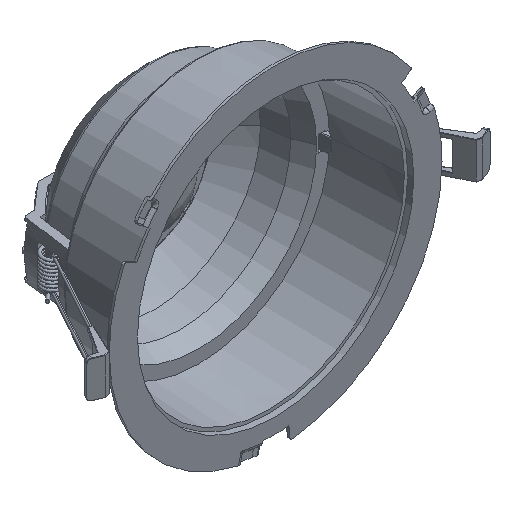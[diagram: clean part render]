
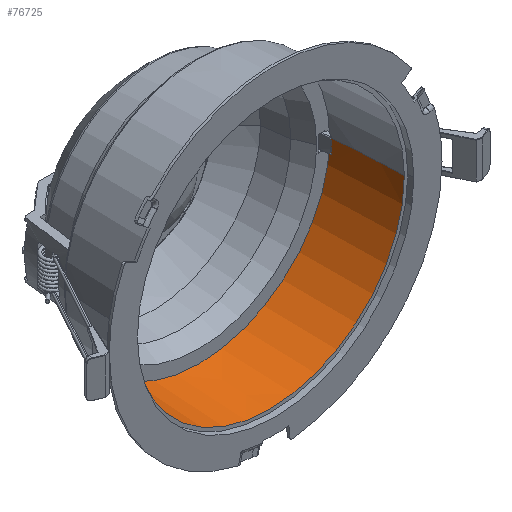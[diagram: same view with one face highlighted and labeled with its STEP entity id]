
A CAD part, isometric view. The second image highlights one B-rep face of the part: STEP entity #76725.
In plain terms, the highlighted free-form (B-spline) face has degree [3, 3] with [7, 4] control points.
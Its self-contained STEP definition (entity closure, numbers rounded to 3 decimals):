
#19532=CARTESIAN_POINT('',(0.,37.8,0.));
#19533=DIRECTION('',(0.,-1.,0.));
#19534=DIRECTION('',(-1.,0.,0.));
#19535=AXIS2_PLACEMENT_3D('',#19532,#19533,#19534);
#19587=CARTESIAN_POINT('',(400.405,-5.234,
0.));
#19588=DIRECTION('',(0.,0.,-1.));
#19589=DIRECTION('',(-1.,0.018,0.));
#19590=AXIS2_PLACEMENT_3D('',#19587,#19588,#19589);
#19592=CARTESIAN_POINT('',(-400.405,-5.234,
0.));
#19593=DIRECTION('',(0.,0.,1.));
#19594=DIRECTION('',(1.,0.018,0.));
#19595=AXIS2_PLACEMENT_3D('',#19592,#19593,#19594);
#19612=CARTESIAN_POINT('',(0.,3.,0.));
#19613=DIRECTION('',(0.,1.,0.));
#19614=DIRECTION('',(1.,0.,0.));
#19615=AXIS2_PLACEMENT_3D('',#19612,#19613,#19614);
#73715=CARTESIAN_POINT('',(-64.407,37.8,0.));
#73716=CARTESIAN_POINT('',(64.407,37.8,0.));
#73717=VERTEX_POINT('',#73715);
#73718=VERTEX_POINT('',#73716);
#73828=CARTESIAN_POINT('',(-66.322,3.,0.));
#73829=CARTESIAN_POINT('',(66.322,3.,0.));
#73830=VERTEX_POINT('',#73828);
#73831=VERTEX_POINT('',#73829);
#76689=CARTESIAN_POINT('',(-64.215,38.494,
4.04));
#76690=CARTESIAN_POINT('',(-65.346,26.459,
4.111));
#76691=CARTESIAN_POINT('',(-66.009,14.389,
4.153));
#76692=CARTESIAN_POINT('',(-66.203,2.303,
4.165));
#76693=CARTESIAN_POINT('',(-66.702,38.494,
-35.478));
#76694=CARTESIAN_POINT('',(-67.876,26.459,
-36.102));
#76695=CARTESIAN_POINT('',(-68.564,14.389,
-36.469));
#76696=CARTESIAN_POINT('',(-68.767,2.303,
-36.576));
#76697=CARTESIAN_POINT('',(-39.596,38.494,
-64.342));
#76698=CARTESIAN_POINT('',(-40.293,26.459,
-65.475));
#76699=CARTESIAN_POINT('',(-40.702,14.389,
-66.139));
#76700=CARTESIAN_POINT('',(-40.822,2.303,
-66.334));
#76701=CARTESIAN_POINT('',(0.,38.494,-64.342));
#76702=CARTESIAN_POINT('',(0.,26.459,-65.475));
#76703=CARTESIAN_POINT('',(0.,14.389,-66.139));
#76704=CARTESIAN_POINT('',(0.,2.303,-66.334));
#76705=CARTESIAN_POINT('',(39.596,38.494,
-64.342));
#76706=CARTESIAN_POINT('',(40.293,26.459,
-65.475));
#76707=CARTESIAN_POINT('',(40.702,14.389,
-66.139));
#76708=CARTESIAN_POINT('',(40.822,2.303,
-66.334));
#76709=CARTESIAN_POINT('',(66.702,38.494,
-35.478));
#76710=CARTESIAN_POINT('',(67.876,26.459,
-36.102));
#76711=CARTESIAN_POINT('',(68.564,14.389,
-36.469));
#76712=CARTESIAN_POINT('',(68.767,2.303,
-36.576));
#76713=CARTESIAN_POINT('',(64.215,38.494,4.04));
#76714=CARTESIAN_POINT('',(65.346,26.459,4.111));
#76715=CARTESIAN_POINT('',(66.009,14.389,4.153));
#76716=CARTESIAN_POINT('',(66.203,2.303,4.165));
#76717=(BOUNDED_SURFACE()B_SPLINE_SURFACE(3,3,((#76689,#76690,#76691,#76692),(
#76693,#76694,#76695,#76696),(#76697,#76698,#76699,#76700),(#76701,#76702,
#76703,#76704),(#76705,#76706,#76707,#76708),(#76709,#76710,#76711,#76712),(
#76713,#76714,#76715,#76716)),.UNSPECIFIED.,.F.,.F.,.F.)B_SPLINE_SURFACE_WITH_KNOTS((4,3,4),(4,4),(0.,1.,2.),(0.,1.),.UNSPECIFIED.)GEOMETRIC_REPRESENTATION_ITEM()RATIONAL_B_SPLINE_SURFACE(((1.188,1.187,
1.187,1.188),(0.938,0.937,
0.937,0.938),(0.938,0.937,
0.937,0.938),(1.188,1.187,
1.187,1.188),(0.938,0.937,
0.937,0.938),(0.938,0.937,
0.937,0.938),(1.188,1.187,
1.187,1.188)))REPRESENTATION_ITEM('')SURFACE());
#76718=ORIENTED_EDGE('',*,*,#76613,.T.);
#76719=ORIENTED_EDGE('',*,*,#76683,.F.);
#76721=ORIENTED_EDGE('',*,*,#76720,.T.);
#76722=ORIENTED_EDGE('',*,*,#76679,.T.);
#76723=EDGE_LOOP('',(#76718,#76719,#76721,#76722));
#76724=FACE_OUTER_BOUND('',#76723,.F.);
#76725=ADVANCED_FACE('',(#76724),#76717,.F.);
#19536=CIRCLE('',#19535,64.407);
#19591=CIRCLE('',#19590,466.8);
#19596=CIRCLE('',#19595,466.8);
#19616=CIRCLE('',#19615,66.322);
#76613=EDGE_CURVE('',#73717,#73718,#19536,.T.);
#76679=EDGE_CURVE('',#73830,#73717,#19591,.T.);
#76683=EDGE_CURVE('',#73831,#73718,#19596,.T.);
#76720=EDGE_CURVE('',#73831,#73830,#19616,.T.);
